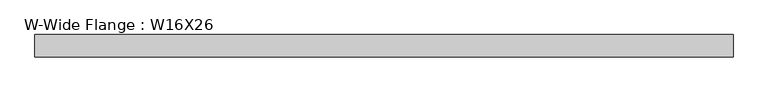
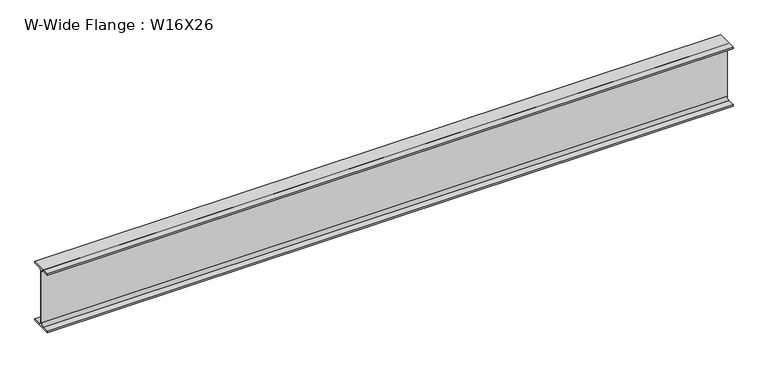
"""IFC4 building model written with IfcOpenShell, lengths in millimetres: beam geometry, W-Wide Flange : W16X26."""

from ifc_helpers import new_model, si_unit, point, frame, frame_2d, origin, place, context, project, spatial, polyline, circle_curve, trimmed, segment, composite_curve, outline, extrude, source, transform, mapped, element, save


def w_wide_flange_w16x26_4758be9f(model_context):
    return source(origin(), model_context, "Body", "SweptSolid", [
        extrude(outline(composite_curve([segment(polyline([(69.85, -190.5496094), (69.85, -199.2808594), (-69.85, -199.2808594), (-69.85, -190.5496094), (-21.43125, -190.5496094)]), True, "CONTINUOUS"), segment(trimmed(circle_curve(frame_2d((-21.43125, -172.2933594)), 18.25625), [point((-21.43125, -190.5496094))], [point((-3.175, -172.2933594))], True, "CARTESIAN"), True, "CONTINUOUS"), segment(polyline([(-3.175, -172.2933594), (-3.175, 172.2933594)]), True, "CONTINUOUS"), segment(trimmed(circle_curve(frame_2d((-21.43125, 172.2933594)), 18.25625), [point((-3.175, 172.2933594))], [point((-21.43125, 190.5496094))], True, "CARTESIAN"), True, "CONTINUOUS"), segment(polyline([(-21.43125, 190.5496094), (-69.85, 190.5496094), (-69.85, 199.2808594), (69.85, 199.2808594), (69.85, 190.5496094), (21.43125, 190.5496094)]), True, "CONTINUOUS"), segment(trimmed(circle_curve(frame_2d((21.43125, 172.2933594)), 18.25625), [point((21.43125, 190.5496094))], [point((3.175, 172.2933594))], True, "CARTESIAN"), True, "CONTINUOUS"), segment(polyline([(3.175, 172.2933594), (3.175, -172.2933594)]), True, "CONTINUOUS"), segment(trimmed(circle_curve(frame_2d((21.43125, -172.2933594)), 18.25625), [point((3.175, -172.2933594))], [point((21.43125, -190.5496094))], True, "CARTESIAN"), True, "CONTINUOUS"), segment(polyline([(21.43125, -190.5496094), (69.85, -190.5496094)]), True, "CONTINUOUS")], self_intersect=False)), frame((-2178.0190902, 0.0, 0.0), z_axis=(1.0, 0.0, 0.0), x_axis=(0.0, 1.0, 0.0)), (0.0, 0.0, 1.0), 4394.2373991),
    ])


if __name__ == "__main__":
    model = new_model("IFC4")
    model_context = context("Model", 3, world=origin())
    ifc_project = project(units=[si_unit("LENGTHUNIT", "METRE", prefix="MILLI")], contexts=[model_context])
    site = spatial("IfcSite", under=ifc_project)
    building = spatial("IfcBuilding", under=site)
    placement = place(None, origin())
    w_wide_flange_w16x26_shape = w_wide_flange_w16x26_4758be9f(model_context)
    element("IfcBeam", 1, ObjectType="W-Wide Flange : W16X26", at=placement, inside=building, context=model_context, shape_type="MappedRepresentation", body=[
        mapped(w_wide_flange_w16x26_shape, transform((0.0, 0.0, 0.0), x_axis=(1.0, 0.0, 0.0), y_axis=(0.0, 1.0, 0.0), z_axis=(0.0, 0.0, 1.0))),
    ])
    save(model, "model.ifc")
